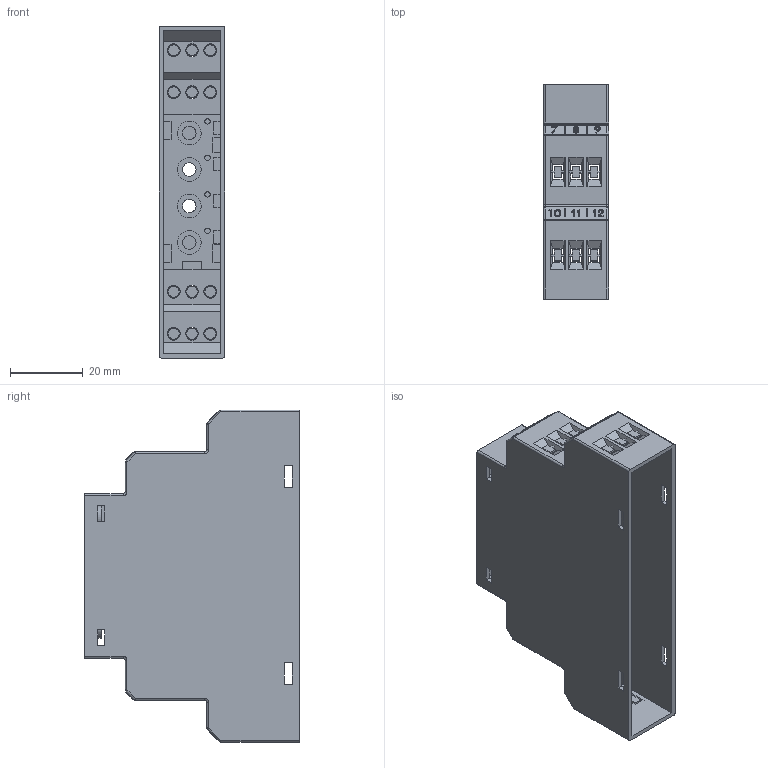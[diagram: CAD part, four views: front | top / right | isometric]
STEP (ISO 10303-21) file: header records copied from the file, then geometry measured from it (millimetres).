
FILE_DESCRIPTION (( 'STEP AP214' ), '1' );
FILE_NAME ('PF-01.STEP', '2026-05-21T07:50:49', ( '' ), ( '' ), 'SwSTEP 2.0', 'SolidWorks 2022', '' );
FILE_SCHEMA (( 'AUTOMOTIVE_DESIGN' ));
Length unit declared in the file: millimetre
Products named in the file (1): PF-01
Bounding box: 17.9 x 58.9 x 91 mm (x, y, z)
Volume: 13810.2 mm3; surface area: 25247.7 mm2
Topology: 2 solids, 2 shells, 1204 faces, 3378 edges, 2228 vertices
Faces by surface type: plane 869, cylinder 173, bspline 138, sphere 16, torus 8
Entity records: 58887 total; most frequent: CARTESIAN_POINT 14845, ORIENTED_EDGE 6740, DIRECTION 5646, EDGE_CURVE 3370, LINE 2676, VECTOR 2676, VERTEX_POINT 2228, AXIS2_PLACEMENT_3D 1485
